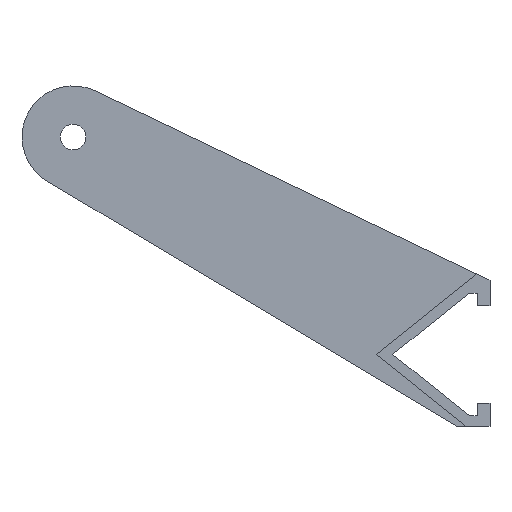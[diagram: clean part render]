
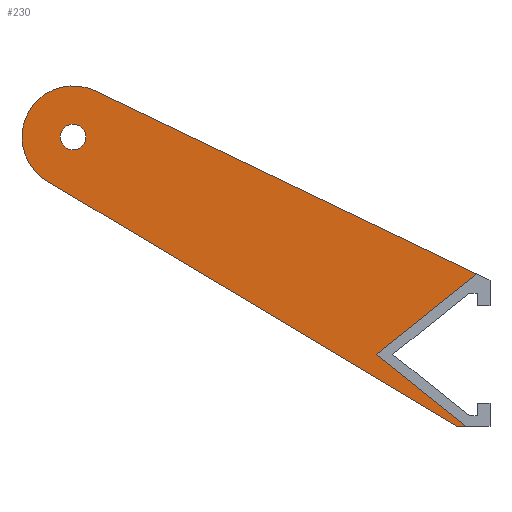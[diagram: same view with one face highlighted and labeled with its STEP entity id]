
A CAD part, left-side view. The second image highlights one B-rep face of the part: STEP entity #230.
In plain terms, the highlighted planar face has unit normal (-1, 0, 0).
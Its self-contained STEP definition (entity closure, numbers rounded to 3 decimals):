
#154 = VERTEX_POINT('',#155);
#155 = CARTESIAN_POINT('',(0.,-5.,-9.6));
#163 = VERTEX_POINT('',#164);
#164 = CARTESIAN_POINT('',(0.,27.053,9.567));
#170 = EDGE_CURVE('',#154,#163,#171,.T.);
#171 = LINE('',#172,#173);
#172 = CARTESIAN_POINT('',(0.,-5.,-9.6));
#173 = VECTOR('',#174,1.);
#174 = DIRECTION('',(0.,0.858,0.513));
#187 = VERTEX_POINT('',#188);
#188 = CARTESIAN_POINT('',(0.,23.27,16.607));
#194 = EDGE_CURVE('',#163,#187,#195,.T.);
#195 = CIRCLE('',#196,4.);
#196 = AXIS2_PLACEMENT_3D('',#197,#198,#199);
#197 = CARTESIAN_POINT('',(0.,25.,13.));
#198 = DIRECTION('',(1.,0.,0.));
#199 = DIRECTION('',(0.,1.,0.));
#210 = VERTEX_POINT('',#211);
#211 = CARTESIAN_POINT('',(0.,26.,13.));
#219 = EDGE_CURVE('',#210,#210,#220,.T.);
#220 = CIRCLE('',#221,1.);
#221 = AXIS2_PLACEMENT_3D('',#222,#223,#224);
#222 = CARTESIAN_POINT('',(0.,25.,13.));
#223 = DIRECTION('',(1.,0.,0.));
#224 = DIRECTION('',(0.,1.,0.));
#230 = ADVANCED_FACE('',(#231,#265),#268,.F.);
#231 = FACE_BOUND('',#232,.F.);
#232 = EDGE_LOOP('',(#233,#241,#249,#257,#263,#264));
#233 = ORIENTED_EDGE('',*,*,#234,.F.);
#234 = EDGE_CURVE('',#235,#187,#237,.T.);
#235 = VERTEX_POINT('',#236);
#236 = CARTESIAN_POINT('',(0.,-6.581,2.289));
#237 = LINE('',#238,#239);
#238 = CARTESIAN_POINT('',(0.,-7.6,1.8));
#239 = VECTOR('',#240,1.);
#240 = DIRECTION('',(0.,0.902,0.432));
#241 = ORIENTED_EDGE('',*,*,#242,.T.);
#242 = EDGE_CURVE('',#235,#243,#245,.T.);
#243 = VERTEX_POINT('',#244);
#244 = CARTESIAN_POINT('',(0.,1.281,-4.));
#245 = LINE('',#246,#247);
#246 = CARTESIAN_POINT('',(0.,-6.581,2.289));
#247 = VECTOR('',#248,1.);
#248 = DIRECTION('',(0.,0.781,-0.625));
#249 = ORIENTED_EDGE('',*,*,#250,.T.);
#250 = EDGE_CURVE('',#243,#251,#253,.T.);
#251 = VERTEX_POINT('',#252);
#252 = CARTESIAN_POINT('',(0.,-5.719,-9.6));
#253 = LINE('',#254,#255);
#254 = CARTESIAN_POINT('',(0.,1.281,-4.));
#255 = VECTOR('',#256,1.);
#256 = DIRECTION('',(0.,-0.781,-0.625));
#257 = ORIENTED_EDGE('',*,*,#258,.T.);
#258 = EDGE_CURVE('',#251,#154,#259,.T.);
#259 = LINE('',#260,#261);
#260 = CARTESIAN_POINT('',(0.,-7.6,-9.6));
#261 = VECTOR('',#262,1.);
#262 = DIRECTION('',(0.,1.,0.));
#263 = ORIENTED_EDGE('',*,*,#170,.T.);
#264 = ORIENTED_EDGE('',*,*,#194,.T.);
#265 = FACE_BOUND('',#266,.F.);
#266 = EDGE_LOOP('',(#267));
#267 = ORIENTED_EDGE('',*,*,#219,.F.);
#268 = PLANE('',#269);
#269 = AXIS2_PLACEMENT_3D('',#270,#271,#272);
#270 = CARTESIAN_POINT('',(0.,8.666,3.689));
#271 = DIRECTION('',(1.,0.,0.));
#272 = DIRECTION('',(0.,0.,1.));
